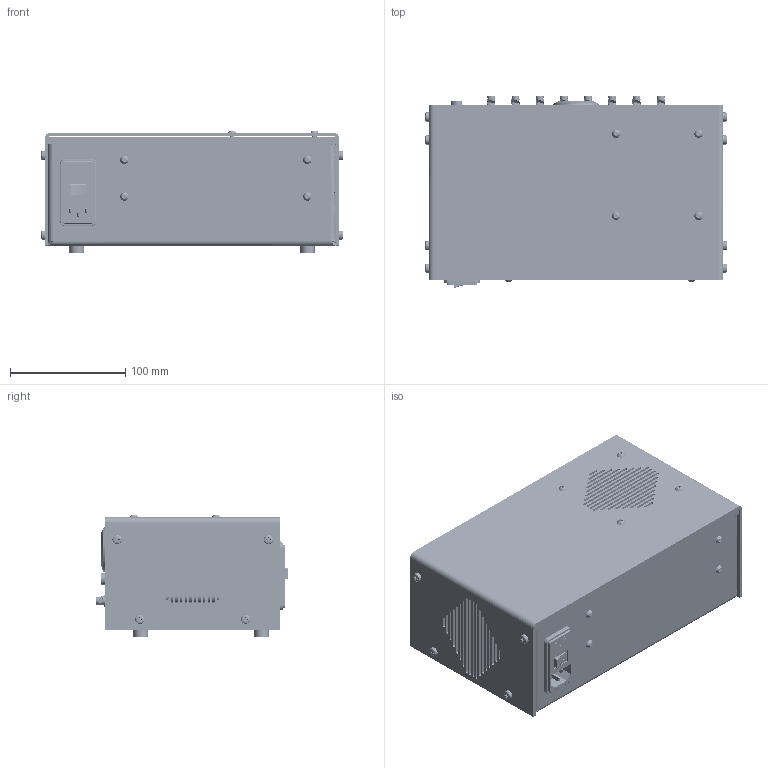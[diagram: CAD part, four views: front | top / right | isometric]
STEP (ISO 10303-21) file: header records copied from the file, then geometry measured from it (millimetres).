
FILE_DESCRIPTION(/* description */ (''),/* implementation_level */ '2;1');
FILE_NAME(/* name */ '\\crunkykid\Products-all\Power Supplies\Product Information\LNF-PBA\Web\CAD\LNF-PBA.stp',/* time_stamp */ '2024-04-12T10:59:47+02:00',/* author */ ('SlavkoDejanovic'),/* organization */ (''),/* preprocessor_version */ 'ST-DEVELOPER v18.1',/* originating_system */ 'Autodesk Inventor 2022',/* authorisation */ '');
FILE_SCHEMA (('CONFIG_CONTROL_DESIGN'));
Products named in the file (21): LNF-PBA; LNF-PBA_Base; LNF-PBA_Cover; Open frame Linear Supply HBB15-1.5-AG; BEZ ASM EM32; BEZ EM32_2 Thread; WIND EM32_WIND EM32 C; LCD EM 32 1900; SEAL EM32_Iss1; EM32-1B PCB_LED; 6609107-2-a-3d; M8 PCB male t4040034031-000; LNF-PBA_board v1; LNF-PBA_board v1_1; LNF-PBA_board v1_9; LNF-PBA_board v1_10; LNF-PBA_board v1_11; LNF-PBA_board v1_12; LNF-PBA_board v1_13; screw_iso7380-1_-_d_m4_x_l_12_-_a2-070; cross_recessed_phillips_pan_head_M4x08
Assembly tree (41 placements, depth 3):
  LNF-PBA
    LNF-PBA_Base
    LNF-PBA_Cover
    Open frame Linear Supply HBB15-1.5-AG
    BEZ ASM EM32
      BEZ EM32_2 Thread
      WIND EM32_WIND EM32 C
      LCD EM 32 1900
      SEAL EM32_Iss1
      EM32-1B PCB_LED
    6609107-2-a-3d
    M8 PCB male t4040034031-000  x8
    LNF-PBA_board v1
      LNF-PBA_board v1_1
      LNF-PBA_board v1_9
      LNF-PBA_board v1_10
      LNF-PBA_board v1_11
      LNF-PBA_board v1_12
      LNF-PBA_board v1_13
    screw_iso7380-1_-_d_m4_x_l_12_-_a2-070  x8
    cross_recessed_phillips_pan_head_M4x08  x8
Bounding box: 262.03 x 167.06 x 106.47 mm (x, y, z)
Volume: 552825.3 mm3; surface area: 478760 mm2
Topology: 106 solids, 106 shells, 6373 faces, 16942 edges, 11160 vertices
Faces by surface type: plane 3911, cylinder 1083, bspline 1075, cone 218, torus 58, sphere 28
Full cylindrical faces by diameter (mm): 0.35 x8, 0.9 x24, 1 x58, 1.015 x2, 1.1 x4, 1.2 x5, 1.3 x29, 1.397 x8, 1.4 x1, 1.524 x4, 1.797 x2, 2.13 x1, 2.5 x1, 3 x16, 3.328 x1, 4 x20, 4.1 x4, 4.775 x16, 5.8 x8, 6.1 x1, 6.5 x8, 6.9 x8, 7.5 x1, 8 x9, 10 x1, 12.7 x4, 25.2 x1, 28.5 x1, 28.7 x1, 30 x9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
Entity records: 182440 total; most frequent: CARTESIAN_POINT 73906, ORIENTED_EDGE 23852, DIRECTION 18039, EDGE_CURVE 11926, LINE 8735, VECTOR 8735, VERTEX_POINT 7884, EDGE_LOOP 5264
